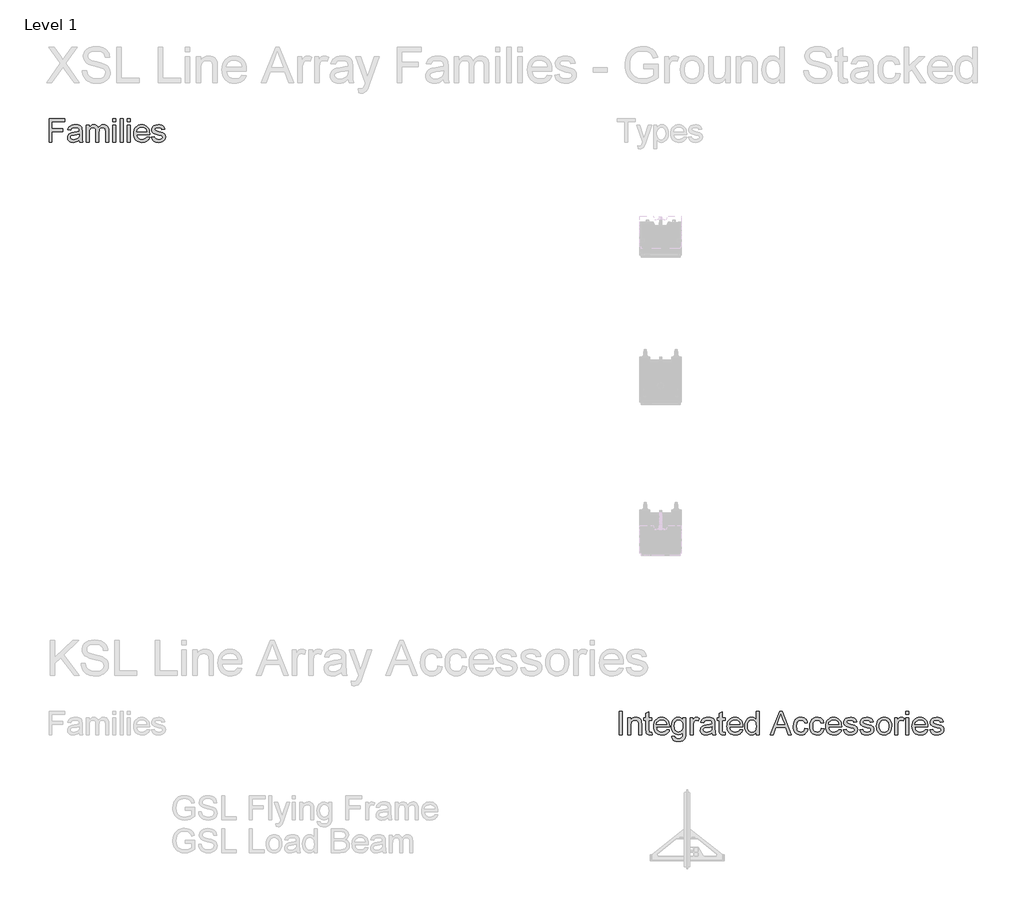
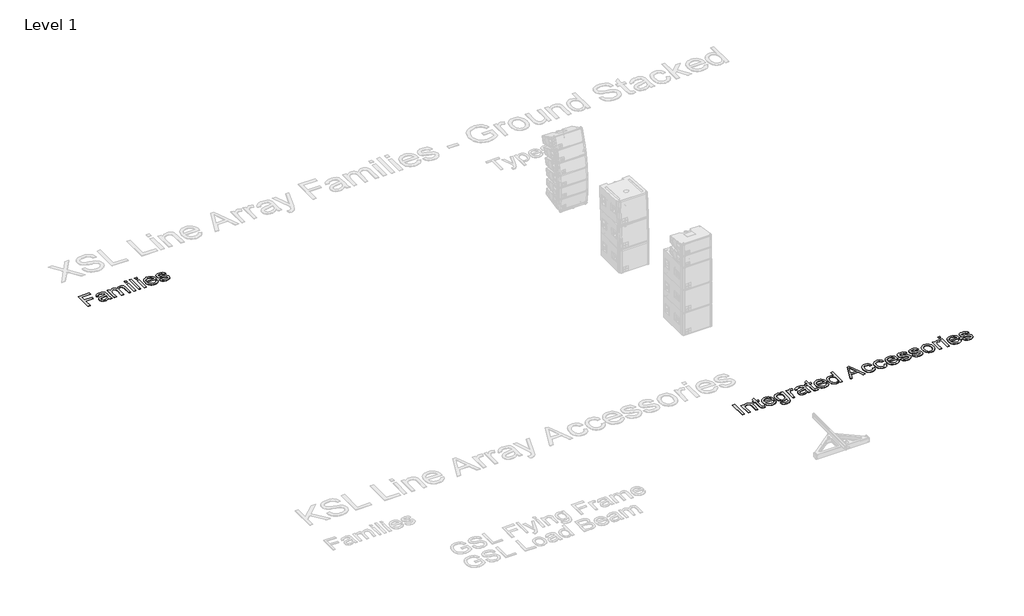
# One storey, part 20 of 52: 2 proxies.
"""IFC4 building model written with IfcOpenShell, lengths in millimetres."""

import ifcopenshell
import ifcopenshell.guid

model = None  # the IFC model being written
_history = None  # IfcOwnerHistory: only IFC2X3 demands one
_inside = {}  # id of a spatial element -> (the spatial element, [elements in it])
_under = {}  # id of a project, library or spatial element -> (it, [spatial elements below it])
_declared = {}  # id of a project -> (the project, [libraries it declares])
_typed = {}  # id of a type object -> (the type object, [elements of that type])
_made_of = {}  # id of a material, layer set ... -> (it, [elements and type objects made of it])


def new_model(schema):
    """Start an empty IFC model of exactly this schema.

    Asked for "IFC4X3", IfcOpenShell would pick the latest addendum, in which some entities
    have other attributes; the version numbers below select the first issue.
    IFC2X3 requires an IfcOwnerHistory on every rooted entity: one is made here for all.
    """
    global model, _history
    if schema == "IFC4X3":
        model = ifcopenshell.file(schema_version=(4, 3, 0, 0))
    else:
        model = ifcopenshell.file(schema=schema)
    _inside.clear()
    _under.clear()
    _declared.clear()
    _typed.clear()
    _made_of.clear()
    _history = None
    if model.schema == "IFC2X3":
        org = make("IfcOrganization", Name="unknown")
        user = make(
            "IfcPersonAndOrganization",
            ThePerson=make("IfcPerson", FamilyName="unknown"),
            TheOrganization=org,
        )
        app = make(
            "IfcApplication",
            ApplicationDeveloper=org,
            Version="unknown",
            ApplicationFullName="unknown",
            ApplicationIdentifier="unknown",
        )
        _history = make(
            "IfcOwnerHistory",
            OwningUser=user,
            OwningApplication=app,
            ChangeAction="ADDED",
            CreationDate=0,
        )
    return model


def make(cls, **values):
    """One entity of the class cls with the attributes given. An attribute that is None is left unset."""
    return model.create_entity(
        cls, **{name: value for name, value in values.items() if value is not None}
    )


def rooted(cls, **values):
    """An entity with a GlobalId (a new one), such as an element, a storey or a relation."""
    return make(cls, GlobalId=ifcopenshell.guid.new(), OwnerHistory=_history, **values)


def si_unit(unit_type, name, prefix=None):
    """IfcSIUnit, for example si_unit("LENGTHUNIT", "METRE", prefix="MILLI")."""
    return make("IfcSIUnit", UnitType=unit_type, Prefix=prefix, Name=name)


def assignment(units):
    """IfcUnitAssignment: the units of a project."""
    return None if units is None else make("IfcUnitAssignment", Units=units)


def point(xyz):
    """IfcCartesianPoint."""
    return None if xyz is None else make("IfcCartesianPoint", Coordinates=xyz)


def direction(xyz):
    """IfcDirection."""
    return None if xyz is None else make("IfcDirection", DirectionRatios=xyz)


def frame(location, z_axis=None, x_axis=None):
    """IfcAxis2Placement3D, a coordinate frame: its origin and axes. An axis left out is left unset."""
    return make(
        "IfcAxis2Placement3D",
        Location=point(location),
        Axis=direction(z_axis),
        RefDirection=direction(x_axis),
    )


def origin():
    """The frame at (0, 0, 0) with its axes left unset."""
    return frame((0.0, 0.0, 0.0))


def origin_with_axes():
    """The frame at (0, 0, 0) with the z axis (0, 0, 1) and the x axis (1, 0, 0) written out."""
    return frame((0.0, 0.0, 0.0), z_axis=(0.0, 0.0, 1.0), x_axis=(1.0, 0.0, 0.0))


def place(relative_to, where):
    """IfcLocalPlacement: puts the frame where relative to a parent placement (None: the world)."""
    return make(
        "IfcLocalPlacement", PlacementRelTo=relative_to, RelativePlacement=where
    )


def context(
    kind, dimensions, precision=None, world=None, true_north=None, identifier=None
):
    """IfcGeometricRepresentationContext, for example the 3D "Model" context."""
    return make(
        "IfcGeometricRepresentationContext",
        ContextIdentifier=identifier,
        ContextType=kind,
        CoordinateSpaceDimension=dimensions,
        Precision=precision,
        WorldCoordinateSystem=world,
        TrueNorth=true_north,
    )


def project(units=None, contexts=None):
    """IfcProject with its units and contexts."""
    return rooted(
        "IfcProject",
        Name="project",
        RepresentationContexts=contexts,
        UnitsInContext=assignment(units),
    )


def spatial(cls, under=None, at=None, **own):
    """A site, building, storey or space (cls), placed at a placement, below another one or the project."""
    s = rooted(cls, ObjectPlacement=at, **own)
    if under is not None:
        _under.setdefault(under.id(), (under, []))[1].append(s)
    return s


def polyline(points):
    """IfcPolyline through the points."""
    return make("IfcPolyline", Points=[point(p) for p in points])


def outline(outer, holes=None, kind="AREA"):
    """IfcArbitraryClosedProfileDef: a profile drawn as a closed curve; with holes, ...WithVoids."""
    if holes is None:
        return make("IfcArbitraryClosedProfileDef", ProfileType=kind, OuterCurve=outer)
    return make(
        "IfcArbitraryProfileDefWithVoids",
        ProfileType=kind,
        OuterCurve=outer,
        InnerCurves=holes,
    )


def extrude(swept, where, along, depth):
    """IfcExtrudedAreaSolid: the profile swept, set in the frame where, extruded along a direction by depth."""
    return make(
        "IfcExtrudedAreaSolid",
        SweptArea=swept,
        Position=where,
        ExtrudedDirection=direction(along),
        Depth=depth,
    )


def shape(context_of_items, identifier, shape_type, items):
    """IfcShapeRepresentation: the items that make up one representation, for example the "Body"."""
    return make(
        "IfcShapeRepresentation",
        ContextOfItems=context_of_items,
        RepresentationIdentifier=identifier,
        RepresentationType=shape_type,
        Items=items,
    )


def made_of(thing, what):
    """Note that an element or type object is made of a material, layer set ...; save() writes the relation."""
    if what is not None:
        _made_of.setdefault(what.id(), (what, []))[1].append(thing)
    return thing


def element(
    cls,
    number,
    at=None,
    inside=None,
    cuts=None,
    type_object=None,
    material=None,
    context=None,
    identifier="Body",
    shape_type=None,
    held_by="IfcProductDefinitionShape",
    body=None,
    shapes=None,
    **own,
):
    """One element of the class cls, such as IfcWall. Its Tag is "e" and its number.

    at: its placement. inside: the storey or other place that contains it. cuts: it is an
    opening in that element (IfcRelVoidsElement). A single representation is given by context,
    identifier, shape_type and body (its items); several are given by shapes. held_by: the class
    of the entity that holds the representations. save() writes the other relations.
    """
    e = rooted(cls, Tag="e%d" % number, ObjectPlacement=at, **own)
    if body is not None:
        shapes = [shape(context, identifier, shape_type, body)]
    if shapes is not None:
        e.Representation = make(held_by, Representations=shapes)
    if inside is not None:
        _inside.setdefault(inside.id(), (inside, []))[1].append(e)
    if cuts is not None:
        rooted(
            "IfcRelVoidsElement", RelatingBuildingElement=cuts, RelatedOpeningElement=e
        )
    if type_object is not None:
        _typed.setdefault(type_object.id(), (type_object, []))[1].append(e)
    return made_of(e, material)


def aggregate(whole, parts):
    """IfcRelAggregates: a whole, such as a stair, and the parts it consists of."""
    return rooted("IfcRelAggregates", RelatingObject=whole, RelatedObjects=parts)


def save(model, path):
    """Write the relations noted so far, then the file.

    IfcRelAggregates (storeys below a building ...), IfcRelContainedInSpatialStructure (elements
    in a storey), IfcRelDefinesByType, IfcRelAssociatesMaterial and IfcRelDeclares: one each for
    every whole, place, type object, material and project.
    """
    for whole, parts in _under.values():
        aggregate(whole, parts)
    for where, things in _inside.values():
        rooted(
            "IfcRelContainedInSpatialStructure",
            RelatedElements=things,
            RelatingStructure=where,
        )
    for kind, things in _typed.values():
        rooted("IfcRelDefinesByType", RelatedObjects=things, RelatingType=kind)
    for what, things in _made_of.values():
        rooted("IfcRelAssociatesMaterial", RelatedObjects=things, RelatingMaterial=what)
    for by, libraries in _declared.values():
        rooted("IfcRelDeclares", RelatingContext=by, RelatedDefinitions=libraries)
    model.write(path)


model = new_model("IFC4")

# Units and contexts
model_context = context("Model", 3, world=origin())
ifc_project = project(units=[si_unit("LENGTHUNIT", "METRE", prefix="MILLI")], contexts=[model_context])

# Site, building, storey
site = spatial("IfcSite", under=ifc_project)
building = spatial("IfcBuilding", under=site)
storey = spatial("IfcBuildingStorey", under=building, Name="Level 1", Elevation=0.0)

# Proxies
placement = place(None, origin())
element("IfcBuildingElementProxy", 1, Name="400mm Arial", ObjectType="400mm Arial", at=placement, inside=storey, context=model_context, shape_type="SweptSolid", body=[
    extrude(outline(polyline([(-11437.7764845, -49567.5695164), (-11437.7764845, -49175.8119407), (-11388.8067875, -49175.8119407), (-11388.8067875, -49567.5695164), (-11437.7764845, -49567.5695164)])), origin_with_axes(), (0.0, 0.0, 1.0), 5.0),
    extrude(outline(polyline([(-11296.9886057, -49567.5695164), (-11296.9886057, -49279.8725467), (-11248.0189088, -49279.8725467), (-11248.0189088, -49320.0430013), (-11231.006243, -49299.7903971), (-11210.5743065, -49285.3242513), (-11186.7230991, -49276.6445638), (-11159.4526209, -49273.7513346), (-11135.3144817, -49276.0826556), (-11113.2087762, -49283.0766187), (-11094.7734069, -49293.8604729), (-11081.6462762, -49307.5614672), (-11072.7394343, -49324.1437352), (-11066.9649315, -49343.5714104), (-11064.3825451, -49390.9151604), (-11064.3825451, -49567.5695164), (-11113.3522421, -49567.5695164), (-11113.3522421, -49397.5145922), (-11114.7629902, -49372.1928592), (-11118.9952345, -49354.1878876), (-11126.8021711, -49341.2879113), (-11138.9369959, -49331.2811642), (-11154.4910915, -49324.8610647), (-11172.5558406, -49322.7210316), (-11201.2370669, -49327.5271395), (-11225.6860489, -49341.9454634), (-11235.4566751, -49353.7156457), (-11242.4356938, -49369.8017607), (-11246.623105, -49390.2038086), (-11248.0189088, -49414.9217892), (-11248.0189088, -49567.5695164), (-11296.9886057, -49567.5695164)])), origin_with_axes(), (0.0, 0.0, 1.0), 5.0),
    extrude(outline(polyline([(-10892.9886057, -49526.7295543), (-10886.8673936, -49569.0041755), (-10923.4990224, -49573.6907285), (-10947.0035205, -49571.6582948), (-10964.5302724, -49565.5609937), (-10976.9161625, -49556.1639767), (-10984.9980754, -49544.2323952), (-10989.4455186, -49523.7406812), (-10990.9279997, -49488.6632664), (-10990.9279997, -49328.8422437), (-11027.6552724, -49328.8422437), (-11027.6552724, -49279.8725467), (-10990.9279997, -49279.8725467), (-10990.9279997, -49209.956827), (-10941.9583027, -49181.1680013), (-10941.9583027, -49279.8725467), (-10892.9886057, -49279.8725467), (-10892.9886057, -49328.8422437), (-10941.9583027, -49328.8422437), (-10941.9583027, -49487.2286073), (-10939.3759163, -49512.4786073), (-10931.0070716, -49521.4213157), (-10914.3172042, -49524.7210316), (-10892.9886057, -49526.7295543)])), origin_with_axes(), (0.0, 0.0, 1.0), 5.0),
    extrude(outline(polyline([(-10642.5927724, -49481.8725467), (-10594.5795148, -49487.9937589), (-10601.9411093, -49507.2241684), (-10611.8791124, -49524.1710789), (-10624.3935241, -49538.8344904), (-10639.4843444, -49551.2144028), (-10656.9961519, -49561.0477953), (-10676.7735252, -49568.0716471), (-10723.1249694, -49573.6907285), (-10753.5098534, -49571.2667525), (-10780.583066, -49563.9948242), (-10804.3446072, -49551.8749437), (-10824.7944769, -49534.9071111), (-10841.2392568, -49513.5635683), (-10852.9855281, -49488.3165571), (-10860.0332909, -49459.1660777), (-10862.3825451, -49426.1121301), (-10860.0093799, -49391.937355), (-10852.8898841, -49361.8154918), (-10841.0240579, -49335.7465406), (-10824.4119012, -49313.7305013), (-10804.0158311, -49296.2396159), (-10780.7982648, -49283.7461263), (-10754.7592023, -49276.2500325), (-10725.8986436, -49273.7513346), (-10697.9676244, -49276.2440548), (-10672.7086578, -49283.7222153), (-10650.1217438, -49296.1858161), (-10630.2068822, -49313.6348573), (-10613.9504014, -49335.6030747), (-10602.3386294, -49361.6242039), (-10595.3715662, -49391.6982451), (-10593.0492118, -49425.8251982), (-10593.3361436, -49439.0240619), (-10813.4128482, -49439.0240619), (-10810.5764076, -49458.5653142), (-10804.936404, -49475.6796017), (-10796.4928375, -49490.3669241), (-10785.245708, -49502.6272816), (-10756.8275025, -49519.1975941), (-10722.16853, -49524.7210316), (-10696.1055565, -49522.1625562), (-10674.1552724, -49514.4871301), (-10656.3176777, -49501.2165335), (-10642.5927724, -49481.8725467)]), holes=[polyline([(-10813.4128482, -49390.0543649), (-10642.0189088, -49390.0543649), (-10648.6422516, -49364.1826793), (-10661.6259163, -49345.675577), (-10674.9802014, -49335.6329634), (-10690.1756322, -49328.4596679), (-10726.0899315, -49322.7210316), (-10759.0990461, -49327.2999852), (-10786.3934353, -49341.036846), (-10805.3668018, -49362.4491329), (-10813.4128482, -49390.0543649)])]), origin_with_axes(), (0.0, 0.0, 1.0), 5.0),
    extrude(outline(polyline([(-10556.3219391, -49592.0543649), (-10507.3522421, -49598.175577), (-10501.9483595, -49613.4786073), (-10491.4753482, -49623.9994407), (-10470.8879902, -49632.1769975), (-10443.9403103, -49634.9028498), (-10415.1993065, -49631.8183327), (-10393.822886, -49622.5647816), (-10378.9980754, -49607.739971), (-10369.9119012, -49587.9416755), (-10366.5643633, -49530.8422437), (-10382.8596995, -49546.9104255), (-10401.0440035, -49558.3876982), (-10421.1172752, -49565.2740619), (-10443.0795148, -49567.5695164), (-10469.9285619, -49564.8974639), (-10493.5675593, -49556.8813062), (-10513.996507, -49543.5210434), (-10531.215405, -49524.8166755), (-10544.8775439, -49502.3762162), (-10554.6362146, -49477.8076793), (-10560.491417, -49451.1110647), (-10562.4431512, -49422.2863725), (-10558.9401919, -49382.749559), (-10548.4313141, -49346.3929066), (-10531.2871379, -49315.5836026), (-10507.8782838, -49292.6888346), (-10479.0057696, -49278.4857096), (-10445.4706133, -49273.7513346), (-10422.5698676, -49276.4293649), (-10401.785244, -49284.4634558), (-10383.1167426, -49297.8536073), (-10366.5643633, -49316.5998195), (-10366.5643633, -49279.8725467), (-10317.5946663, -49279.8725467), (-10317.5946663, -49528.2598573), (-10320.9422042, -49585.6103545), (-10330.9848179, -49623.3777551), (-10348.2844154, -49648.4245117), (-10373.402905, -49667.613077), (-10405.7903339, -49679.8076793), (-10444.8967497, -49683.8725467), (-10490.4591313, -49678.1458659), (-10509.6088413, -49670.9875148), (-10526.3375641, -49660.9658232), (-10539.8502594, -49648.0688358), (-10549.351887, -49632.2845969), (-10554.8424469, -49613.6131066), (-10556.3219391, -49592.0543649)]), holes=[polyline([(-10513.4734542, -49418.9388346), (-10508.248904, -49463.8556196), (-10501.7182163, -49481.0506066), (-10492.5752535, -49494.7366566), (-10481.4596344, -49505.1767903), (-10469.0109779, -49512.6340287), (-10455.229284, -49517.1083718), (-10440.1145527, -49518.5998195), (-10411.4333264, -49512.6698952), (-10387.7494959, -49494.8801225), (-10378.4810004, -49481.3285718), (-10371.8606464, -49464.3936168), (-10366.5643633, -49420.3734937), (-10372.0160679, -49377.9195401), (-10378.8306985, -49361.1489731), (-10388.3711815, -49347.349346), (-10412.4017213, -49328.8781102), (-10426.0847823, -49324.2603012), (-10440.8797042, -49322.7210316), (-10455.4265496, -49324.2363902), (-10468.843601, -49328.7824662), (-10492.2883216, -49346.9667702), (-10501.5568171, -49360.5571762), (-10508.1771711, -49377.0826556), (-10513.4734542, -49418.9388346)])]), origin_with_axes(), (0.0, 0.0, 1.0), 5.0),
    extrude(outline(polyline([(-10244.1401209, -49567.5695164), (-10244.1401209, -49279.8725467), (-10201.291636, -49279.8725467), (-10201.291636, -49322.4340998), (-10185.4625641, -49297.7579634), (-10170.8768633, -49283.2200846), (-10156.2433406, -49276.1185221), (-10140.2708027, -49273.7513346), (-10115.8815982, -49277.5292702), (-10091.1098179, -49288.863077), (-10107.4649315, -49332.7636452), (-10124.6808406, -49325.231685), (-10141.8967497, -49322.7210316), (-10156.5183169, -49325.136041), (-10169.5856701, -49332.3810695), (-10180.1423699, -49343.9061642), (-10187.2319769, -49359.1613725), (-10193.1858122, -49386.5155392), (-10195.1704239, -49416.3564482), (-10195.1704239, -49567.5695164), (-10244.1401209, -49567.5695164)])), origin_with_axes(), (0.0, 0.0, 1.0), 5.0),
    extrude(outline(polyline([(-9876.8673936, -49530.8422437), (-9900.2642923, -49550.90356), (-9924.3546095, -49564.0306907), (-9949.688298, -49571.2757191), (-9976.8153103, -49573.6907285), (-9998.6191396, -49572.2381362), (-10017.7389608, -49567.8803592), (-10034.1747741, -49560.6173976), (-10047.9265792, -49550.4492513), (-10058.7851552, -49538.0215169), (-10066.5412809, -49523.979791), (-10071.1949563, -49508.3240737), (-10072.7461815, -49491.0543649), (-10070.402905, -49470.7539388), (-10063.3730754, -49452.3185695), (-10052.5294438, -49436.5373195), (-10038.744761, -49424.1992513), (-10004.4564088, -49408.1310695), (-9962.0861436, -49400.7664861), (-9912.0165413, -49393.019327), (-9877.1543254, -49383.9331528), (-9876.8673936, -49373.0297437), (-9880.2388425, -49351.1751035), (-9890.3531891, -49336.8763346), (-9912.9729807, -49326.2598573), (-9944.4876588, -49322.7210316), (-9973.6590603, -49325.0762636), (-9994.0312194, -49332.1419596), (-10007.9235016, -49345.2093128), (-10017.6552724, -49365.5695164), (-10066.6249694, -49359.4483043), (-10058.1246143, -49332.6680013), (-10045.4398368, -49311.6263346), (-10027.3870432, -49295.5342418), (-10002.7826398, -49283.6026604), (-9972.6906654, -49276.214166), (-9938.1751588, -49273.7513346), (-9905.0704002, -49275.9272342), (-9878.8280944, -49282.4549331), (-9859.0417544, -49292.2703924), (-9845.3048936, -49304.3095732), (-9836.1948084, -49319.1941613), (-9830.2887951, -49337.5458422), (-9827.8976966, -49380.394327), (-9827.8976966, -49441.3195164), (-9825.4109542, -49526.3948005), (-9815.6552724, -49567.5695164), (-9864.6249694, -49567.5695164), (-9872.4677724, -49550.5448952), (-9876.8673936, -49530.8422437)]), holes=[polyline([(-9876.8673936, -49432.9028498), (-9909.7689088, -49441.0564956), (-9955.8692875, -49447.9189482), (-9998.0004429, -49455.8573952), (-10008.9636294, -49461.2851888), (-10017.0814088, -49468.769327), (-10022.1027156, -49477.7359464), (-10023.7764845, -49487.6111831), (-10020.1300593, -49502.1729729), (-10009.1907838, -49514.1045543), (-9991.1977677, -49522.0669123), (-9966.3901209, -49524.7210316), (-9940.0880375, -49521.7919359), (-9916.8465603, -49513.004649), (-9898.0047042, -49500.0568507), (-9884.9014845, -49484.646221), (-9879.0911152, -49468.769327), (-9877.1543254, -49446.771221), (-9876.8673936, -49432.9028498)])]), origin_with_axes(), (0.0, 0.0, 1.0), 5.0),
    extrude(outline(polyline([(-9656.5037572, -49526.7295543), (-9650.3825451, -49569.0041755), (-9687.0141739, -49573.6907285), (-9710.518672, -49571.6582948), (-9728.0454239, -49565.5609937), (-9740.4313141, -49556.1639767), (-9748.5132269, -49544.2323952), (-9752.9606701, -49523.7406812), (-9754.4431512, -49488.6632664), (-9754.4431512, -49328.8422437), (-9791.1704239, -49328.8422437), (-9791.1704239, -49279.8725467), (-9754.4431512, -49279.8725467), (-9754.4431512, -49209.956827), (-9705.4734542, -49181.1680013), (-9705.4734542, -49279.8725467), (-9656.5037572, -49279.8725467), (-9656.5037572, -49328.8422437), (-9705.4734542, -49328.8422437), (-9705.4734542, -49487.2286073), (-9702.8910679, -49512.4786073), (-9694.5222232, -49521.4213157), (-9677.8323557, -49524.7210316), (-9656.5037572, -49526.7295543)])), origin_with_axes(), (0.0, 0.0, 1.0), 5.0),
    extrude(outline(polyline([(-9406.1079239, -49481.8725467), (-9358.0946663, -49487.9937589), (-9365.4562608, -49507.2241684), (-9375.3942639, -49524.1710789), (-9387.9086756, -49538.8344904), (-9402.9994959, -49551.2144028), (-9420.5113034, -49561.0477953), (-9440.2886768, -49568.0716471), (-9486.6401209, -49573.6907285), (-9517.0250049, -49571.2667525), (-9544.0982175, -49563.9948242), (-9567.8597587, -49551.8749437), (-9588.3096285, -49534.9071111), (-9604.7544083, -49513.5635683), (-9616.5006796, -49488.3165571), (-9623.5484424, -49459.1660777), (-9625.8976966, -49426.1121301), (-9623.5245314, -49391.937355), (-9616.4050357, -49361.8154918), (-9604.5392094, -49335.7465406), (-9587.9270527, -49313.7305013), (-9567.5309826, -49296.2396159), (-9544.3134163, -49283.7461263), (-9518.2743538, -49276.2500325), (-9489.4137951, -49273.7513346), (-9461.4827759, -49276.2440548), (-9436.2238093, -49283.7222153), (-9413.6368953, -49296.1858161), (-9393.7220338, -49313.6348573), (-9377.4655529, -49335.6030747), (-9365.8537809, -49361.6242039), (-9358.8867177, -49391.6982451), (-9356.5643633, -49425.8251982), (-9356.8512951, -49439.0240619), (-9576.9279997, -49439.0240619), (-9574.0915591, -49458.5653142), (-9568.4515555, -49475.6796017), (-9560.007989, -49490.3669241), (-9548.7608595, -49502.6272816), (-9520.342654, -49519.1975941), (-9485.6836815, -49524.7210316), (-9459.620708, -49522.1625562), (-9437.6704239, -49514.4871301), (-9419.8328292, -49501.2165335), (-9406.1079239, -49481.8725467)]), holes=[polyline([(-9576.9279997, -49390.0543649), (-9405.5340603, -49390.0543649), (-9412.1574031, -49364.1826793), (-9425.1410679, -49345.675577), (-9438.4953529, -49335.6329634), (-9453.6907838, -49328.4596679), (-9489.605083, -49322.7210316), (-9522.6141976, -49327.2999852), (-9549.9085868, -49341.036846), (-9568.8819533, -49362.4491329), (-9576.9279997, -49390.0543649)])]), origin_with_axes(), (0.0, 0.0, 1.0), 5.0),
    extrude(outline(polyline([(-9130.0795148, -49567.5695164), (-9130.0795148, -49521.3734937), (-9144.7309708, -49544.2622839), (-9162.4788993, -49560.6114198), (-9183.3233003, -49570.4209014), (-9207.2641739, -49573.6907285), (-9238.9223179, -49568.9563535), (-9267.9024315, -49554.7532285), (-9292.4351019, -49532.0736594), (-9310.7509163, -49501.909952), (-9322.1564561, -49465.4815666), (-9325.9583027, -49424.0079634), (-9322.4553434, -49383.0484464), (-9311.9464656, -49346.0581528), (-9294.4436247, -49315.1412494), (-9269.9587762, -49292.4019028), (-9240.3450214, -49278.4139767), (-9207.4554618, -49273.7513346), (-9183.496655, -49277.086917), (-9162.3115224, -49287.0936642), (-9144.3543728, -49302.4325609), (-9130.0795148, -49321.7645922), (-9130.0795148, -49175.8119407), (-9081.1098179, -49175.8119407), (-9081.1098179, -49567.5695164), (-9130.0795148, -49567.5695164)]), holes=[polyline([(-9276.9886057, -49423.8166755), (-9271.4651682, -49468.111775), (-9264.5608714, -49485.4621833), (-9254.8948557, -49499.6144975), (-9230.816494, -49518.4443981), (-9217.2888543, -49523.1518732), (-9202.7689088, -49524.7210316), (-9174.733279, -49518.7313299), (-9151.2646474, -49500.7622248), (-9141.9961519, -49487.2017075), (-9135.375798, -49470.4789625), (-9130.0795148, -49427.5467892), (-9135.4714419, -49380.6095259), (-9142.2113508, -49362.5387991), (-9151.6472232, -49348.0666755), (-9163.0557518, -49336.9779563), (-9175.7136294, -49329.0574426), (-9189.620856, -49324.3051343), (-9204.7774315, -49322.7210316), (-9219.5843089, -49324.242368), (-9233.1119485, -49328.8063772), (-9245.3603505, -49336.4130593), (-9256.3295148, -49347.0624142), (-9265.3678671, -49360.987574), (-9271.823833, -49378.4216708), (-9276.9886057, -49423.8166755)])]), origin_with_axes(), (0.0, 0.0, 1.0), 5.0),
    extrude(outline(polyline([(-8894.1259163, -49567.5695164), (-8737.7480754, -49175.8119407), (-8696.0473179, -49175.8119407), (-8539.6694769, -49567.5695164), (-8591.4128482, -49567.5695164), (-8636.2698557, -49445.145274), (-8797.6211815, -49445.145274), (-8842.3825451, -49567.5695164), (-8894.1259163, -49567.5695164)]), holes=[polyline([(-8779.6401209, -49396.175577), (-8654.1552724, -49396.175577), (-8689.447886, -49299.8621301), (-8716.8976966, -49224.7816376), (-8741.2869012, -49291.4454634), (-8779.6401209, -49396.175577)])]), origin_with_axes(), (0.0, 0.0, 1.0), 5.0),
    extrude(outline(polyline([(-8309.8370906, -49463.5089104), (-8260.8673936, -49469.6301225), (-8266.1935655, -49492.7371005), (-8274.520566, -49513.1839814), (-8285.848395, -49530.9707652), (-8300.1770527, -49546.097452), (-8316.9027866, -49558.1695105), (-8335.4218444, -49566.7924094), (-8355.734226, -49571.9661488), (-8377.8399315, -49573.6907285), (-8405.3046865, -49571.2846857), (-8429.930012, -49564.0665571), (-8451.715908, -49552.0363429), (-8470.6623747, -49535.1940429), (-8485.9982826, -49513.8564778), (-8496.9525025, -49488.3404681), (-8503.5250345, -49458.6460138), (-8505.7158785, -49424.7731149), (-8501.9738093, -49381.195345), (-8490.7476019, -49343.4279445), (-8471.8579239, -49312.9294833), (-8445.1254429, -49291.1585316), (-8413.1445006, -49278.1031339), (-8378.5094391, -49273.7513346), (-8356.7833205, -49275.2457712), (-8337.1314798, -49279.7290808), (-8319.553917, -49287.2012636), (-8304.0506322, -49297.6623195), (-8290.8846462, -49310.8731386), (-8280.3189798, -49326.5946111), (-8272.353633, -49344.8267371), (-8266.9886057, -49365.5695164), (-8315.9583027, -49371.6907285), (-8324.8412336, -49350.3262636), (-8338.6737383, -49335.0112778), (-8356.6906654, -49325.7935931), (-8378.1268633, -49322.7210316), (-8394.7659199, -49324.2334014), (-8409.7730518, -49328.7705107), (-8423.1482589, -49336.3323597), (-8434.8915413, -49346.9189482), (-8444.4529464, -49360.775364), (-8451.2825214, -49378.1466945), (-8456.7461815, -49423.4340998), (-8451.4020764, -49469.3312352), (-8444.721945, -49486.8191317), (-8435.369761, -49500.6665808), (-8423.8596107, -49511.190403), (-8410.7055802, -49518.7074189), (-8395.9076694, -49523.2176284), (-8379.4658785, -49524.7210316), (-8354.108279, -49520.967007), (-8333.3176777, -49509.7049331), (-8318.1939798, -49490.6478782), (-8309.8370906, -49463.5089104)])), origin_with_axes(), (0.0, 0.0, 1.0), 5.0),
    extrude(outline(polyline([(-8034.3825451, -49463.5089104), (-7985.4128482, -49469.6301225), (-7990.73902, -49492.7371005), (-7999.0660205, -49513.1839814), (-8010.3938496, -49530.9707652), (-8024.7225072, -49546.097452), (-8041.4482411, -49558.1695105), (-8059.9672989, -49566.7924094), (-8080.2796805, -49571.9661488), (-8102.385386, -49573.6907285), (-8129.850141, -49571.2846857), (-8154.4754665, -49564.0665571), (-8176.2613626, -49552.0363429), (-8195.2078292, -49535.1940429), (-8210.5437371, -49513.8564778), (-8221.4979571, -49488.3404681), (-8228.070489, -49458.6460138), (-8230.261333, -49424.7731149), (-8226.5192639, -49381.195345), (-8215.2930565, -49343.4279445), (-8196.4033785, -49312.9294833), (-8169.6708974, -49291.1585316), (-8137.6899552, -49278.1031339), (-8103.0548936, -49273.7513346), (-8081.328775, -49275.2457712), (-8061.6769343, -49279.7290808), (-8044.0993716, -49287.2012636), (-8028.5960868, -49297.6623195), (-8015.4301008, -49310.8731386), (-8004.8644343, -49326.5946111), (-7996.8990875, -49344.8267371), (-7991.5340603, -49365.5695164), (-8040.5037572, -49371.6907285), (-8049.3866881, -49350.3262636), (-8063.2191929, -49335.0112778), (-8081.2361199, -49325.7935931), (-8102.6723179, -49322.7210316), (-8119.3113744, -49324.2334014), (-8134.3185063, -49328.7705107), (-8147.6937134, -49336.3323597), (-8159.4369959, -49346.9189482), (-8168.9984009, -49360.775364), (-8175.827976, -49378.1466945), (-8181.291636, -49423.4340998), (-8175.9475309, -49469.3312352), (-8169.2673995, -49486.8191317), (-8159.9152156, -49500.6665808), (-8148.4050652, -49511.190403), (-8135.2510347, -49518.7074189), (-8120.453124, -49523.2176284), (-8104.011333, -49524.7210316), (-8078.6537336, -49520.967007), (-8057.8631322, -49509.7049331), (-8042.7394343, -49490.6478782), (-8034.3825451, -49463.5089104)])), origin_with_axes(), (0.0, 0.0, 1.0), 5.0),
    extrude(outline(polyline([(-7741.1382269, -49481.8725467), (-7693.1249694, -49487.9937589), (-7700.4865638, -49507.2241684), (-7710.4245669, -49524.1710789), (-7722.9389786, -49538.8344904), (-7738.0297989, -49551.2144028), (-7755.5416064, -49561.0477953), (-7775.3189798, -49568.0716471), (-7821.6704239, -49573.6907285), (-7852.0553079, -49571.2667525), (-7879.1285205, -49563.9948242), (-7902.8900617, -49551.8749437), (-7923.3399315, -49534.9071111), (-7939.7847113, -49513.5635683), (-7951.5309826, -49488.3165571), (-7958.5787454, -49459.1660777), (-7960.9279997, -49426.1121301), (-7958.5548344, -49391.937355), (-7951.4353387, -49361.8154918), (-7939.5695125, -49335.7465406), (-7922.9573557, -49313.7305013), (-7902.5612857, -49296.2396159), (-7879.3437194, -49283.7461263), (-7853.3046569, -49276.2500325), (-7824.4440982, -49273.7513346), (-7796.513079, -49276.2440548), (-7771.2541124, -49283.7222153), (-7748.6671983, -49296.1858161), (-7728.7523368, -49313.6348573), (-7712.495856, -49335.6030747), (-7700.8840839, -49361.6242039), (-7693.9170207, -49391.6982451), (-7691.5946663, -49425.8251982), (-7691.8815982, -49439.0240619), (-7911.9583027, -49439.0240619), (-7909.1218621, -49458.5653142), (-7903.4818586, -49475.6796017), (-7895.038292, -49490.3669241), (-7883.7911625, -49502.6272816), (-7855.3729571, -49519.1975941), (-7820.7139845, -49524.7210316), (-7794.651011, -49522.1625562), (-7772.7007269, -49514.4871301), (-7754.8631322, -49501.2165335), (-7741.1382269, -49481.8725467)]), holes=[polyline([(-7911.9583027, -49390.0543649), (-7740.5643633, -49390.0543649), (-7747.1877061, -49364.1826793), (-7760.1713709, -49345.675577), (-7773.5256559, -49335.6329634), (-7788.7210868, -49328.4596679), (-7824.635386, -49322.7210316), (-7857.6445006, -49327.2999852), (-7884.9388898, -49341.036846), (-7903.9122563, -49362.4491329), (-7911.9583027, -49390.0543649)])]), origin_with_axes(), (0.0, 0.0, 1.0), 5.0),
    extrude(outline(polyline([(-7660.9886057, -49481.8725467), (-7612.0189088, -49475.7513346), (-7604.2956607, -49496.6973573), (-7589.3512951, -49512.0960316), (-7567.0901682, -49521.5647816), (-7537.416636, -49524.7210316), (-7508.1017686, -49521.8278024), (-7487.4904997, -49513.1481149), (-7475.2958974, -49500.5709369), (-7471.23103, -49485.9852361), (-7475.3198084, -49473.503702), (-7487.5861436, -49463.9871301), (-7537.9904997, -49450.0231149), (-7611.7319769, -49426.0643081), (-7630.3945006, -49414.0251272), (-7643.9161625, -49398.0884558), (-7652.1295858, -49379.2705107), (-7654.8673936, -49358.5875089), (-7652.667583, -49339.6141424), (-7646.0681512, -49322.099346), (-7635.6668728, -49306.7365382), (-7622.0615224, -49294.2191376), (-7590.9294201, -49279.7290808), (-7548.7982648, -49273.7513346), (-7516.924922, -49276.1543886), (-7489.2120906, -49283.3635505), (-7466.9270527, -49294.6734464), (-7451.3370906, -49309.378702), (-7441.0075451, -49328.5672674), (-7434.5037572, -49353.3270922), (-7483.4734542, -49359.4483043), (-7489.6544438, -49344.0376746), (-7501.8849125, -49332.4288914), (-7520.2844154, -49325.1479965), (-7544.9725072, -49322.7210316), (-7573.0918254, -49325.0403971), (-7591.8380375, -49331.9984937), (-7602.3827819, -49342.0411073), (-7605.8976966, -49353.614024), (-7600.0634163, -49367.864971), (-7581.7954239, -49378.6727361), (-7539.6164466, -49389.0979255), (-7467.7400262, -49412.1481149), (-7448.7547042, -49423.1710789), (-7434.3602913, -49438.2589104), (-7425.2860726, -49457.4594312), (-7422.261333, -49480.8204634), (-7425.8121143, -49504.9705581), (-7436.464458, -49527.6859937), (-7453.8118775, -49547.1854018), (-7477.447886, -49561.6874142), (-7505.9976019, -49570.6899), (-7538.0861436, -49573.6907285), (-7564.4420267, -49572.244114), (-7587.4623273, -49567.9042702), (-7607.1470456, -49560.6711973), (-7623.4961815, -49550.5448952), (-7636.8504665, -49537.5731859), (-7647.5506322, -49521.8038914), (-7655.5966786, -49503.2370117), (-7660.9886057, -49481.8725467)])), origin_with_axes(), (0.0, 0.0, 1.0), 5.0),
    extrude(outline(polyline([(-7385.5340603, -49481.8725467), (-7336.5643633, -49475.7513346), (-7328.8411152, -49496.6973573), (-7313.8967497, -49512.0960316), (-7291.6356228, -49521.5647816), (-7261.9620906, -49524.7210316), (-7232.6472232, -49521.8278024), (-7212.0359542, -49513.1481149), (-7199.8413519, -49500.5709369), (-7195.7764845, -49485.9852361), (-7199.8652629, -49473.503702), (-7212.1315982, -49463.9871301), (-7262.5359542, -49450.0231149), (-7336.2774315, -49426.0643081), (-7354.9399552, -49414.0251272), (-7368.4616171, -49398.0884558), (-7376.6750404, -49379.2705107), (-7379.4128482, -49358.5875089), (-7377.2130375, -49339.6141424), (-7370.6136057, -49322.099346), (-7360.2123273, -49306.7365382), (-7346.6069769, -49294.2191376), (-7315.4748747, -49279.7290808), (-7273.3437194, -49273.7513346), (-7241.4703766, -49276.1543886), (-7213.7575451, -49283.3635505), (-7191.4725072, -49294.6734464), (-7175.8825451, -49309.378702), (-7165.5529997, -49328.5672674), (-7159.0492118, -49353.3270922), (-7208.0189088, -49359.4483043), (-7214.1998983, -49344.0376746), (-7226.4303671, -49332.4288914), (-7244.8298699, -49325.1479965), (-7269.5179618, -49322.7210316), (-7297.63728, -49325.0403971), (-7316.3834921, -49331.9984937), (-7326.9282364, -49342.0411073), (-7330.4431512, -49353.614024), (-7324.6088709, -49367.864971), (-7306.3408785, -49378.6727361), (-7264.1619012, -49389.0979255), (-7192.2854807, -49412.1481149), (-7173.3001588, -49423.1710789), (-7158.9057459, -49438.2589104), (-7149.8315271, -49457.4594312), (-7146.8067875, -49480.8204634), (-7150.3575688, -49504.9705581), (-7161.0099125, -49527.6859937), (-7178.3573321, -49547.1854018), (-7201.9933406, -49561.6874142), (-7230.5430565, -49570.6899), (-7262.6315982, -49573.6907285), (-7288.9874812, -49572.244114), (-7312.0077819, -49567.9042702), (-7331.6925001, -49560.6711973), (-7348.041636, -49550.5448952), (-7361.3959211, -49537.5731859), (-7372.0960868, -49521.8038914), (-7380.1421332, -49503.2370117), (-7385.5340603, -49481.8725467)])), origin_with_axes(), (0.0, 0.0, 1.0), 5.0),
    extrude(outline(polyline([(-7103.9583027, -49423.7210316), (-7101.3101611, -49386.4617394), (-7093.3657364, -49354.3552645), (-7080.1250286, -49327.4016069), (-7061.5880375, -49305.6007664), (-7042.9255139, -49291.66664), (-7022.3262004, -49281.7136926), (-6999.7900972, -49275.7419241), (-6975.3172042, -49273.7513346), (-6948.3007802, -49276.1753107), (-6923.8727203, -49283.447239), (-6902.0330245, -49295.5671194), (-6882.7816929, -49312.534952), (-6867.0691869, -49333.7768732), (-6855.8459684, -49358.7190193), (-6849.1120373, -49387.3613902), (-6846.8673936, -49419.7039861), (-6850.8366171, -49469.1758138), (-6862.7442875, -49506.8356149), (-6882.2436957, -49535.0386215), (-6908.9881322, -49556.1400657), (-6940.7538756, -49569.3030628), (-6975.3172042, -49573.6907285), (-7002.7281595, -49571.2757191), (-7027.3833737, -49564.0306907), (-7049.282847, -49551.9556433), (-7068.4265792, -49535.050577), (-7083.9717082, -49513.6024236), (-7095.0753718, -49487.8981149), (-7101.73757, -49457.9376509), (-7103.9583027, -49423.7210316)]), holes=[polyline([(-7054.9886057, -49423.6253876), (-7053.5718799, -49447.3779622), (-7049.3217023, -49467.9443981), (-7042.2380731, -49485.3246952), (-7032.3209921, -49499.5188535), (-7020.2579002, -49510.5448064), (-7006.7362383, -49518.4204871), (-6991.7560063, -49523.1458955), (-6975.3172042, -49524.7210316), (-6958.9620906, -49523.1369288), (-6944.041636, -49518.3846206), (-6930.5558406, -49510.4641069), (-6918.5047042, -49499.3753876), (-6908.5876232, -49485.0407522), (-6901.503994, -49467.3824899), (-6897.2538164, -49446.4006007), (-6895.8370906, -49422.0950846), (-6897.262783, -49399.0957061), (-6901.5398605, -49379.0672674), (-6908.6683228, -49362.0097686), (-6918.6481701, -49347.9232096), (-6930.7441396, -49336.8972567), (-6944.2209684, -49329.0215761), (-6959.0786566, -49324.2961677), (-6975.3172042, -49322.7210316), (-6991.7560063, -49324.29019), (-7006.7362383, -49328.9976651), (-7020.2579002, -49336.843457), (-7032.3209921, -49347.8275657), (-7042.2380731, -49361.9798798), (-7049.3217023, -49379.3302882), (-7053.5718799, -49399.8787908), (-7054.9886057, -49423.6253876)])]), origin_with_axes(), (0.0, 0.0, 1.0), 5.0),
    extrude(outline(polyline([(-6791.7764845, -49567.5695164), (-6791.7764845, -49279.8725467), (-6748.9279997, -49279.8725467), (-6748.9279997, -49322.4340998), (-6733.0989277, -49297.7579634), (-6718.5132269, -49283.2200846), (-6703.8797042, -49276.1185221), (-6687.9071663, -49273.7513346), (-6663.5179618, -49277.5292702), (-6638.7461815, -49288.863077), (-6655.1012951, -49332.7636452), (-6672.3172042, -49325.231685), (-6689.5331133, -49322.7210316), (-6704.1546805, -49325.136041), (-6717.2220338, -49332.3810695), (-6727.7787336, -49343.9061642), (-6734.8683406, -49359.1613725), (-6740.8221758, -49386.5155392), (-6742.8067875, -49416.3564482), (-6742.8067875, -49567.5695164), (-6791.7764845, -49567.5695164)])), origin_with_axes(), (0.0, 0.0, 1.0), 5.0),
    extrude(outline(polyline([(-6608.1401209, -49224.7816376), (-6608.1401209, -49175.8119407), (-6559.1704239, -49175.8119407), (-6559.1704239, -49224.7816376), (-6608.1401209, -49224.7816376)])), origin_with_axes(), (0.0, 0.0, 1.0), 5.0),
    extrude(outline(polyline([(-6608.1401209, -49567.5695164), (-6608.1401209, -49279.8725467), (-6559.1704239, -49279.8725467), (-6559.1704239, -49567.5695164), (-6608.1401209, -49567.5695164)])), origin_with_axes(), (0.0, 0.0, 1.0), 5.0),
    extrude(outline(polyline([(-6284.2897421, -49481.8725467), (-6236.2764845, -49487.9937589), (-6243.638079, -49507.2241684), (-6253.5760821, -49524.1710789), (-6266.0904938, -49538.8344904), (-6281.1813141, -49551.2144028), (-6298.6931216, -49561.0477953), (-6318.4704949, -49568.0716471), (-6364.8219391, -49573.6907285), (-6395.2068231, -49571.2667525), (-6422.2800357, -49563.9948242), (-6446.0415768, -49551.8749437), (-6466.4914466, -49534.9071111), (-6482.9362265, -49513.5635683), (-6494.6824978, -49488.3165571), (-6501.7302606, -49459.1660777), (-6504.0795148, -49426.1121301), (-6501.7063496, -49391.937355), (-6494.5868538, -49361.8154918), (-6482.7210276, -49335.7465406), (-6466.1088709, -49313.7305013), (-6445.7128008, -49296.2396159), (-6422.4952345, -49283.7461263), (-6396.456172, -49276.2500325), (-6367.5956133, -49273.7513346), (-6339.6645941, -49276.2440548), (-6314.4056275, -49283.7222153), (-6291.8187134, -49296.1858161), (-6271.9038519, -49313.6348573), (-6255.6473711, -49335.6030747), (-6244.0355991, -49361.6242039), (-6237.0685359, -49391.6982451), (-6234.7461815, -49425.8251982), (-6235.0331133, -49439.0240619), (-6455.1098179, -49439.0240619), (-6452.2733773, -49458.5653142), (-6446.6333737, -49475.6796017), (-6438.1898072, -49490.3669241), (-6426.9426777, -49502.6272816), (-6398.5244722, -49519.1975941), (-6363.8654997, -49524.7210316), (-6337.8025262, -49522.1625562), (-6315.8522421, -49514.4871301), (-6298.0146474, -49501.2165335), (-6284.2897421, -49481.8725467)]), holes=[polyline([(-6455.1098179, -49390.0543649), (-6283.7158785, -49390.0543649), (-6290.3392213, -49364.1826793), (-6303.322886, -49345.675577), (-6316.6771711, -49335.6329634), (-6331.8726019, -49328.4596679), (-6367.7869012, -49322.7210316), (-6400.7960158, -49327.2999852), (-6428.090405, -49341.036846), (-6447.0637714, -49362.4491329), (-6455.1098179, -49390.0543649)])]), origin_with_axes(), (0.0, 0.0, 1.0), 5.0),
    extrude(outline(polyline([(-6204.1401209, -49481.8725467), (-6155.1704239, -49475.7513346), (-6147.4471758, -49496.6973573), (-6132.5028103, -49512.0960316), (-6110.2416834, -49521.5647816), (-6080.5681512, -49524.7210316), (-6051.2532838, -49521.8278024), (-6030.6420148, -49513.1481149), (-6018.4474125, -49500.5709369), (-6014.3825451, -49485.9852361), (-6018.4713235, -49473.503702), (-6030.7376588, -49463.9871301), (-6081.1420148, -49450.0231149), (-6154.8834921, -49426.0643081), (-6173.5460158, -49414.0251272), (-6187.0676777, -49398.0884558), (-6195.281101, -49379.2705107), (-6198.0189088, -49358.5875089), (-6195.8190982, -49339.6141424), (-6189.2196663, -49322.099346), (-6178.8183879, -49306.7365382), (-6165.2130375, -49294.2191376), (-6134.0809353, -49279.7290808), (-6091.94978, -49273.7513346), (-6060.0764372, -49276.1543886), (-6032.3636057, -49283.3635505), (-6010.0785679, -49294.6734464), (-5994.4886057, -49309.378702), (-5984.1590603, -49328.5672674), (-5977.6552724, -49353.3270922), (-6026.6249694, -49359.4483043), (-6032.8059589, -49344.0376746), (-6045.0364277, -49332.4288914), (-6063.4359305, -49325.1479965), (-6088.1240224, -49322.7210316), (-6116.2433406, -49325.0403971), (-6134.9895527, -49331.9984937), (-6145.534297, -49342.0411073), (-6149.0492118, -49353.614024), (-6143.2149315, -49367.864971), (-6124.9469391, -49378.6727361), (-6082.7679618, -49389.0979255), (-6010.8915413, -49412.1481149), (-5991.9062194, -49423.1710789), (-5977.5118065, -49438.2589104), (-5968.4375877, -49457.4594312), (-5965.4128482, -49480.8204634), (-5968.9636294, -49504.9705581), (-5979.6159732, -49527.6859937), (-5996.9633927, -49547.1854018), (-6020.5994012, -49561.6874142), (-6049.1491171, -49570.6899), (-6081.2376588, -49573.6907285), (-6107.5935418, -49572.244114), (-6130.6138425, -49567.9042702), (-6150.2985607, -49560.6711973), (-6166.6476966, -49550.5448952), (-6180.0019817, -49537.5731859), (-6190.7021474, -49521.8038914), (-6198.7481938, -49503.2370117), (-6204.1401209, -49481.8725467)])), origin_with_axes(), (0.0, 0.0, 1.0), 5.0),
])
element("IfcBuildingElementProxy", 2, Name="400mm Arial", ObjectType="400mm Arial", at=placement, inside=storey, context=model_context, shape_type="SweptSolid", body=[
    extrude(outline(polyline([(-21056.720891, -39567.5695164), (-21056.720891, -39175.8119407), (-20793.5087698, -39175.8119407), (-20793.5087698, -39224.7816376), (-21007.7511941, -39224.7816376), (-21007.7511941, -39341.0846679), (-20824.1148304, -39341.0846679), (-20824.1148304, -39390.0543649), (-21007.7511941, -39390.0543649), (-21007.7511941, -39567.5695164), (-21056.720891, -39567.5695164)])), origin_with_axes(), (0.0, 0.0, 1.0), 5.0),
    extrude(outline(polyline([(-20548.660285, -39530.8422437), (-20572.0571836, -39550.90356), (-20596.1475009, -39564.0306907), (-20621.4811893, -39571.2757191), (-20648.6082016, -39573.6907285), (-20670.4120309, -39572.2381362), (-20689.5318522, -39567.8803592), (-20705.9676654, -39560.6173976), (-20719.7194706, -39550.4492513), (-20730.5780466, -39538.0215169), (-20738.3341723, -39523.979791), (-20742.9878477, -39508.3240737), (-20744.5390729, -39491.0543649), (-20742.1957963, -39470.7539388), (-20735.1659668, -39452.3185695), (-20724.3223352, -39436.5373195), (-20710.5376524, -39424.1992513), (-20676.2493001, -39408.1310695), (-20633.879035, -39400.7664861), (-20583.8094327, -39393.019327), (-20548.9472168, -39383.9331528), (-20548.660285, -39373.0297437), (-20552.0317338, -39351.1751035), (-20562.1460804, -39336.8763346), (-20584.7658721, -39326.2598573), (-20616.2805501, -39322.7210316), (-20645.4519516, -39325.0762636), (-20665.8241107, -39332.1419596), (-20679.7163929, -39345.2093128), (-20689.4481638, -39365.5695164), (-20738.4178607, -39359.4483043), (-20729.9175056, -39332.6680013), (-20717.2327282, -39311.6263346), (-20699.1799346, -39295.5342418), (-20674.5755312, -39283.6026604), (-20644.4835568, -39276.214166), (-20609.9680501, -39273.7513346), (-20576.8632916, -39275.9272342), (-20550.6209857, -39282.4549331), (-20530.8346458, -39292.2703924), (-20517.097785, -39304.3095732), (-20507.9876997, -39319.1941613), (-20502.0816865, -39337.5458422), (-20499.690588, -39380.394327), (-20499.690588, -39441.3195164), (-20497.2038456, -39526.3948005), (-20487.4481638, -39567.5695164), (-20536.4178607, -39567.5695164), (-20544.2606638, -39550.5448952), (-20548.660285, -39530.8422437)]), holes=[polyline([(-20548.660285, -39432.9028498), (-20581.5618001, -39441.0564956), (-20627.6621789, -39447.9189482), (-20669.7933342, -39455.8573952), (-20680.7565208, -39461.2851888), (-20688.8743001, -39468.769327), (-20693.8956069, -39477.7359464), (-20695.5693759, -39487.6111831), (-20691.9229507, -39502.1729729), (-20680.9836751, -39514.1045543), (-20662.990659, -39522.0669123), (-20638.1830122, -39524.7210316), (-20611.8809289, -39521.7919359), (-20588.6394516, -39513.004649), (-20569.7975956, -39500.0568507), (-20556.6943759, -39484.646221), (-20550.8840066, -39468.769327), (-20548.9472168, -39446.771221), (-20548.660285, -39432.9028498)])]), origin_with_axes(), (0.0, 0.0, 1.0), 5.0),
    extrude(outline(polyline([(-20432.3572547, -39567.5695164), (-20432.3572547, -39279.8725467), (-20383.3875577, -39279.8725467), (-20383.3875577, -39327.2162967), (-20368.658391, -39305.469256), (-20349.720891, -39288.4326793), (-20327.2206543, -39277.4216708), (-20301.8032774, -39273.7513346), (-20274.5686657, -39277.4934037), (-20252.7379365, -39288.7196111), (-20236.4306448, -39306.6887162), (-20225.7663456, -39330.6594785), (-20207.9167954, -39305.7621656), (-20187.5565918, -39287.9783706), (-20164.6857348, -39277.3080936), (-20139.3042244, -39273.7513346), (-20119.7002057, -39275.2308268), (-20102.4932632, -39279.6693034), (-20087.683397, -39287.0667643), (-20075.2706069, -39297.4232096), (-20065.4581365, -39310.8581942), (-20058.4492291, -39327.4912731), (-20054.2438846, -39347.3224461), (-20052.8421032, -39370.3517134), (-20052.8421032, -39567.5695164), (-20101.8118001, -39567.5695164), (-20101.8118001, -39391.3933801), (-20106.3548872, -39350.505596), (-20112.7391202, -39339.2315666), (-20122.8056448, -39330.3725467), (-20135.7534431, -39324.6339104), (-20150.7814971, -39322.7210316), (-20177.3107348, -39327.6227835), (-20198.9382206, -39342.3280392), (-20207.3279874, -39353.6080463), (-20213.320678, -39367.84106), (-20218.1148304, -39405.1661073), (-20218.1148304, -39567.5695164), (-20267.0845274, -39567.5695164), (-20267.0845274, -39385.9416755), (-20269.9179791, -39358.2527551), (-20278.4183342, -39338.5022816), (-20293.3746552, -39326.6663441), (-20315.5760047, -39322.7210316), (-20334.4417717, -39325.3512399), (-20351.8250577, -39333.2418649), (-20366.1716486, -39346.2016187), (-20375.9273304, -39364.0392134), (-20381.5225009, -39388.7870827), (-20383.3875577, -39422.4776604), (-20383.3875577, -39567.5695164), (-20432.3572547, -39567.5695164)])), origin_with_axes(), (0.0, 0.0, 1.0), 5.0),
    extrude(outline(polyline([(-19979.3875577, -39224.7816376), (-19979.3875577, -39175.8119407), (-19930.4178607, -39175.8119407), (-19930.4178607, -39224.7816376), (-19979.3875577, -39224.7816376)])), origin_with_axes(), (0.0, 0.0, 1.0), 5.0),
    extrude(outline(polyline([(-19979.3875577, -39567.5695164), (-19979.3875577, -39279.8725467), (-19930.4178607, -39279.8725467), (-19930.4178607, -39567.5695164), (-19979.3875577, -39567.5695164)])), origin_with_axes(), (0.0, 0.0, 1.0), 5.0),
    extrude(outline(polyline([(-19856.9633153, -39567.5695164), (-19856.9633153, -39175.8119407), (-19807.9936183, -39175.8119407), (-19807.9936183, -39567.5695164), (-19856.9633153, -39567.5695164)])), origin_with_axes(), (0.0, 0.0, 1.0), 5.0),
    extrude(outline(polyline([(-19734.5390729, -39224.7816376), (-19734.5390729, -39175.8119407), (-19685.5693759, -39175.8119407), (-19685.5693759, -39224.7816376), (-19734.5390729, -39224.7816376)])), origin_with_axes(), (0.0, 0.0, 1.0), 5.0),
    extrude(outline(polyline([(-19734.5390729, -39567.5695164), (-19734.5390729, -39279.8725467), (-19685.5693759, -39279.8725467), (-19685.5693759, -39567.5695164), (-19734.5390729, -39567.5695164)])), origin_with_axes(), (0.0, 0.0, 1.0), 5.0),
    extrude(outline(polyline([(-19410.6886941, -39481.8725467), (-19362.6754365, -39487.9937589), (-19370.0370309, -39507.2241684), (-19379.975034, -39524.1710789), (-19392.4894457, -39538.8344904), (-19407.580266, -39551.2144028), (-19425.0920736, -39561.0477953), (-19444.8694469, -39568.0716471), (-19491.220891, -39573.6907285), (-19521.605775, -39571.2667525), (-19548.6789876, -39563.9948242), (-19572.4405288, -39551.8749437), (-19592.8903986, -39534.9071111), (-19609.3351784, -39513.5635683), (-19621.0814497, -39488.3165571), (-19628.1292125, -39459.1660777), (-19630.4784668, -39426.1121301), (-19628.1053015, -39391.937355), (-19620.9858058, -39361.8154918), (-19609.1199796, -39335.7465406), (-19592.5078229, -39313.7305013), (-19572.1117528, -39296.2396159), (-19548.8941865, -39283.7461263), (-19522.855124, -39276.2500325), (-19493.9945653, -39273.7513346), (-19466.0635461, -39276.2440548), (-19440.8045795, -39283.7222153), (-19418.2176654, -39296.1858161), (-19398.3028039, -39313.6348573), (-19382.0463231, -39335.6030747), (-19370.4345511, -39361.6242039), (-19363.4674879, -39391.6982451), (-19361.1451335, -39425.8251982), (-19361.4320653, -39439.0240619), (-19581.5087698, -39439.0240619), (-19578.6723292, -39458.5653142), (-19573.0323257, -39475.6796017), (-19564.5887592, -39490.3669241), (-19553.3416297, -39502.6272816), (-19524.9234242, -39519.1975941), (-19490.2644516, -39524.7210316), (-19464.2014782, -39522.1625562), (-19442.2511941, -39514.4871301), (-19424.4135994, -39501.2165335), (-19410.6886941, -39481.8725467)]), holes=[polyline([(-19581.5087698, -39390.0543649), (-19410.1148304, -39390.0543649), (-19416.7381732, -39364.1826793), (-19429.721838, -39345.675577), (-19443.076123, -39335.6329634), (-19458.2715539, -39328.4596679), (-19494.1858532, -39322.7210316), (-19527.1949677, -39327.2999852), (-19554.4893569, -39341.036846), (-19573.4627234, -39362.4491329), (-19581.5087698, -39390.0543649)])]), origin_with_axes(), (0.0, 0.0, 1.0), 5.0),
    extrude(outline(polyline([(-19330.5390729, -39481.8725467), (-19281.5693759, -39475.7513346), (-19273.8461278, -39496.6973573), (-19258.9017622, -39512.0960316), (-19236.6406354, -39521.5647816), (-19206.9671032, -39524.7210316), (-19177.6522357, -39521.8278024), (-19157.0409668, -39513.1481149), (-19144.8463645, -39500.5709369), (-19140.7814971, -39485.9852361), (-19144.8702755, -39473.503702), (-19157.1366107, -39463.9871301), (-19207.5409668, -39450.0231149), (-19281.2824441, -39426.0643081), (-19299.9449677, -39414.0251272), (-19313.4666297, -39398.0884558), (-19321.680053, -39379.2705107), (-19324.4178607, -39358.5875089), (-19322.2180501, -39339.6141424), (-19315.6186183, -39322.099346), (-19305.2173399, -39306.7365382), (-19291.6119895, -39294.2191376), (-19260.4798872, -39279.7290808), (-19218.3487319, -39273.7513346), (-19186.4753891, -39276.1543886), (-19158.7625577, -39283.3635505), (-19136.4775198, -39294.6734464), (-19120.8875577, -39309.378702), (-19110.5580122, -39328.5672674), (-19104.0542244, -39353.3270922), (-19153.0239213, -39359.4483043), (-19159.2049109, -39344.0376746), (-19171.4353797, -39332.4288914), (-19189.8348825, -39325.1479965), (-19214.5229744, -39322.7210316), (-19242.6422925, -39325.0403971), (-19261.3885047, -39331.9984937), (-19271.933249, -39342.0411073), (-19275.4481638, -39353.614024), (-19269.6138835, -39367.864971), (-19251.345891, -39378.6727361), (-19209.1669138, -39389.0979255), (-19137.2904933, -39412.1481149), (-19118.3051713, -39423.1710789), (-19103.9107585, -39438.2589104), (-19094.8365397, -39457.4594312), (-19091.8118001, -39480.8204634), (-19095.3625814, -39504.9705581), (-19106.0149251, -39527.6859937), (-19123.3623446, -39547.1854018), (-19146.9983532, -39561.6874142), (-19175.5480691, -39570.6899), (-19207.6366107, -39573.6907285), (-19233.9924938, -39572.244114), (-19257.0127944, -39567.9042702), (-19276.6975127, -39560.6711973), (-19293.0466486, -39550.5448952), (-19306.4009336, -39537.5731859), (-19317.1010994, -39521.8038914), (-19325.1471458, -39503.2370117), (-19330.5390729, -39481.8725467)])), origin_with_axes(), (0.0, 0.0, 1.0), 5.0),
])

save(model, "model.ifc")
